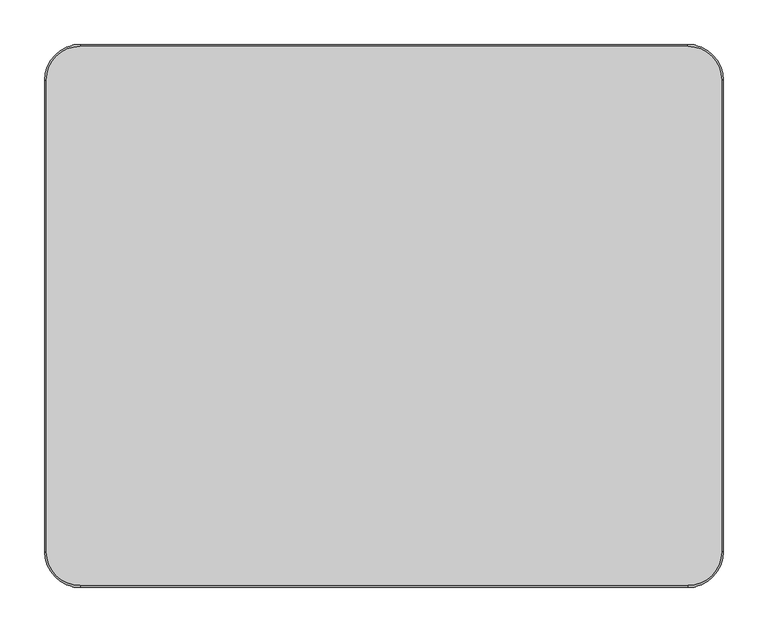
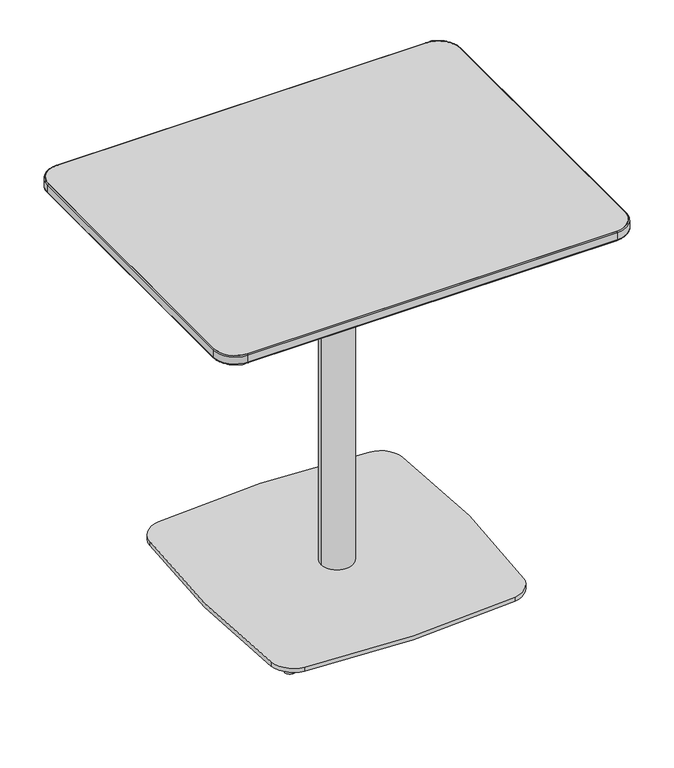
"""IFC4 building model written with IfcOpenShell, lengths in millimetres: furniture geometry, Coalesse_AM_Table_Conference_Montara650_WorkHeight_Rectangular : 24D x 30W."""

from ifc_helpers import new_model, si_unit, point, frame, frame_2d, origin, place, context, project, spatial, polyline, circle_curve, ellipse_curve, trimmed, segment, composite_curve, outline, extrude, source, transform, mapped, element, save
from ifc_brep_helpers import plane_surface, cylinder_surface, revolved_surface, spline_surface, advanced_brep


def furniture_fb8f0c13(model_context):
    return source(origin(), model_context, "Body", "SolidModel", [
        advanced_brep(
        [(-738.6535608, 215.2429015, 0.0), (-738.6535608, 194.5411546, 0.0), (-738.6535608, 219.370028, 11.9999882), (-738.6535608, 190.414028, 11.9999882)],
        [
            (0, 1, circle_curve(frame((-738.6535608, 204.892028, 0.0), z_axis=(0.0, 0.0, -1.0), x_axis=(0.0, 1.0, 0.0)), 10.3508735)),
            (1, 0, circle_curve(frame((-738.6535608, 204.892028, 0.0), z_axis=(0.0, 0.0, -1.0), x_axis=(0.0, -1.0, 0.0)), 10.3508735)),
            (2, 3, circle_curve(frame((-738.6535608, 204.892028, 11.9999882), z_axis=(0.0, 0.0, 1.0), x_axis=(0.0, -1.0, 0.0)), 14.478)),
            (3, 2, circle_curve(frame((-738.6535608, 204.892028, 11.9999882), z_axis=(0.0, 0.0, 1.0), x_axis=(0.0, 1.0, 0.0)), 14.478)),
            (2, 0),
            (1, 3),
        ],
        [
            plane_surface(frame((-738.6535608, 204.892028, 0.0), z_axis=(0.0, 0.0, -1.0), x_axis=(-1.0, 0.0, 0.0))),
            plane_surface(frame((-738.6535608, 204.892028, 11.9999882), z_axis=(0.0, 0.0, 1.0), x_axis=(-1.0, 0.0, 0.0))),
            revolved_surface(polyline([(-738.6535608, 194.5411545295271, 0.0), (-738.6535608, 190.414028, 11.999988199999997)]), (-738.6535608, 204.892028, -30.0960871), (0.0, 0.0, 1.0)),
            revolved_surface(polyline([(-738.6535608, 215.2429014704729, 0.0), (-738.6535608, 219.370028, 11.999988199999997)]), (-738.6535608, 204.892028, -30.0960871), (0.0, 0.0, 1.0)),
        ],
        [
            (0, [[1, 2]]),
            (1, [[3, 4]]),
            (2, [[-3, 5, -2, 6]]),
            (3, [[-4, -6, -1, -5]]),
        ],
    ),
        advanced_brep(
        [(-738.6535608, -194.5411546, 0.0), (-738.6535608, -215.2429015, 0.0), (-738.6535608, -190.414028, 11.9999882), (-738.6535608, -219.370028, 11.9999882)],
        [
            (0, 1, circle_curve(frame((-738.6535608, -204.892028, 0.0), z_axis=(0.0, 0.0, -1.0), x_axis=(0.0, 1.0, 0.0)), 10.3508735)),
            (1, 0, circle_curve(frame((-738.6535608, -204.892028, 0.0), z_axis=(0.0, 0.0, -1.0), x_axis=(0.0, -1.0, 0.0)), 10.3508735)),
            (2, 3, circle_curve(frame((-738.6535608, -204.892028, 11.9999882), z_axis=(0.0, 0.0, 1.0), x_axis=(0.0, -1.0, 0.0)), 14.478)),
            (3, 2, circle_curve(frame((-738.6535608, -204.892028, 11.9999882), z_axis=(0.0, 0.0, 1.0), x_axis=(0.0, 1.0, 0.0)), 14.478)),
            (3, 1),
            (0, 2),
        ],
        [
            plane_surface(frame((-738.6535608, -204.892028, 0.0), z_axis=(0.0, 0.0, -1.0), x_axis=(-1.0, 0.0, 0.0))),
            plane_surface(frame((-738.6535608, -204.892028, 11.9999882), z_axis=(0.0, 0.0, 1.0), x_axis=(-1.0, 0.0, 0.0))),
            revolved_surface(polyline([(-738.6535608, -194.5411545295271, 0.0), (-738.6535608, -190.414028, 11.999988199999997)]), (-738.6535608, -204.892028, -30.0960871), (0.0, 0.0, 1.0)),
            revolved_surface(polyline([(-738.6535608, -215.2429014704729, 0.0), (-738.6535608, -219.370028, 11.999988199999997)]), (-738.6535608, -204.892028, -30.0960871), (0.0, 0.0, 1.0)),
        ],
        [
            (0, [[1, 2]]),
            (1, [[3, 4]]),
            (2, [[-4, 5, -1, 6]]),
            (3, [[-3, -6, -2, -5]]),
        ],
    ),
        advanced_brep(
        [(-328.1464392, 194.5411546, 0.0), (-328.1464392, 215.2429015, 0.0), (-328.1464392, 190.414028, 11.9999882), (-328.1464392, 219.370028, 11.9999882)],
        [
            (0, 1, circle_curve(frame((-328.1464392, 204.892028, 0.0), z_axis=(0.0, 0.0, -1.0), x_axis=(0.0, -1.0, 0.0)), 10.3508735)),
            (1, 0, circle_curve(frame((-328.1464392, 204.892028, 0.0), z_axis=(0.0, 0.0, -1.0), x_axis=(0.0, 1.0, 0.0)), 10.3508735)),
            (2, 3, circle_curve(frame((-328.1464392, 204.892028, 11.9999882), z_axis=(0.0, 0.0, 1.0), x_axis=(0.0, 1.0, 0.0)), 14.478)),
            (3, 2, circle_curve(frame((-328.1464392, 204.892028, 11.9999882), z_axis=(0.0, 0.0, 1.0), x_axis=(0.0, -1.0, 0.0)), 14.478)),
            (3, 1),
            (0, 2),
        ],
        [
            plane_surface(frame((-328.1464392, 204.892028, 0.0), z_axis=(0.0, 0.0, -1.0), x_axis=(1.0, 0.0, 0.0))),
            plane_surface(frame((-328.1464392, 204.892028, 11.9999882), z_axis=(0.0, 0.0, 1.0), x_axis=(1.0, 0.0, 0.0))),
            revolved_surface(polyline([(-328.1464392, 194.5411545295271, 0.0), (-328.1464392, 190.414028, 11.999988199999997)]), (-328.1464392, 204.892028, -30.0960871), (0.0, 0.0, 1.0)),
            revolved_surface(polyline([(-328.1464392, 215.2429014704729, 0.0), (-328.1464392, 219.370028, 11.999988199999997)]), (-328.1464392, 204.892028, -30.0960871), (0.0, 0.0, 1.0)),
        ],
        [
            (0, [[1, 2]]),
            (1, [[3, 4]]),
            (2, [[-4, 5, -1, 6]]),
            (3, [[-3, -6, -2, -5]]),
        ],
    ),
        advanced_brep(
        [(-328.1464392, -215.2429015, 0.0), (-328.1464392, -194.5411546, 0.0), (-328.1464392, -219.370028, 11.9999882), (-328.1464392, -190.414028, 11.9999882)],
        [
            (0, 1, circle_curve(frame((-328.1464392, -204.892028, 0.0), z_axis=(0.0, 0.0, -1.0), x_axis=(0.0, -1.0, 0.0)), 10.3508735)),
            (1, 0, circle_curve(frame((-328.1464392, -204.892028, 0.0), z_axis=(0.0, 0.0, -1.0), x_axis=(0.0, 1.0, 0.0)), 10.3508735)),
            (2, 3, circle_curve(frame((-328.1464392, -204.892028, 11.9999882), z_axis=(0.0, 0.0, 1.0), x_axis=(0.0, 1.0, 0.0)), 14.478)),
            (3, 2, circle_curve(frame((-328.1464392, -204.892028, 11.9999882), z_axis=(0.0, 0.0, 1.0), x_axis=(0.0, -1.0, 0.0)), 14.478)),
            (2, 0),
            (1, 3),
        ],
        [
            plane_surface(frame((-328.1464392, -204.892028, 0.0), z_axis=(0.0, 0.0, -1.0), x_axis=(1.0, 0.0, 0.0))),
            plane_surface(frame((-328.1464392, -204.892028, 11.9999882), z_axis=(0.0, 0.0, 1.0), x_axis=(1.0, 0.0, 0.0))),
            revolved_surface(polyline([(-328.1464392, -194.5411545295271, 0.0), (-328.1464392, -190.414028, 11.999988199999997)]), (-328.1464392, -204.892028, -30.0960871), (0.0, 0.0, 1.0)),
            revolved_surface(polyline([(-328.1464392, -215.2429014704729, 0.0), (-328.1464392, -219.370028, 11.999988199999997)]), (-328.1464392, -204.892028, -30.0960871), (0.0, 0.0, 1.0)),
        ],
        [
            (0, [[1, 2]]),
            (1, [[3, 4]]),
            (2, [[-3, 5, -2, 6]]),
            (3, [[-4, -6, -1, -5]]),
        ],
    ),
        extrude(outline(composite_curve([segment(trimmed(circle_curve(frame_2d((-344.0811518, 188.9781952)), 44.45), [point((-338.9758413, 233.1340363))], [point((-299.9290283, 194.115557))], False, "CARTESIAN"), True, "CONTINUOUS"), segment(trimmed(circle_curve(frame_2d((-1930.9488879, 4.3367087)), 1642.0236885), [point((-299.9290283, 194.115557))], [point((-300.9116252, -193.704489))], False, "CARTESIAN"), True, "CONTINUOUS"), segment(trimmed(circle_curve(frame_2d((-345.0371496, -188.3434633)), 44.45), [point((-300.9116252, -193.704489))], [point((-339.4996689, -232.4471911))], False, "CARTESIAN"), True, "CONTINUOUS"), segment(trimmed(circle_curve(frame_2d((-537.7367152, 1346.4283112)), 1591.2717488), [point((-339.4996689, -232.4471911))], [point((-727.977927, -233.4305622))], False, "CARTESIAN"), True, "CONTINUOUS"), segment(trimmed(circle_curve(frame_2d((-722.663799, -189.2993652)), 44.45), [point((-727.977927, -233.4305622))], [point((-766.838325, -194.2403925))], False, "CARTESIAN"), True, "CONTINUOUS"), segment(trimmed(circle_curve(frame_2d((969.7397991, 5.89e-05)), 1747.4074894), [point((-766.838325, -194.2403925))], [point((-766.8410299, 194.2163254))], False, "CARTESIAN"), True, "CONTINUOUS"), segment(trimmed(circle_curve(frame_2d((-722.6664351, 189.2759133)), 44.45), [point((-766.8410299, 194.2163254))], [point((-727.7022914, 233.4397294))], False, "CARTESIAN"), True, "CONTINUOUS"), segment(trimmed(circle_curve(frame_2d((-534.6702107, -1459.4269529)), 1703.8365498), [point((-727.7022914, 233.4397294))], [point((-338.9758413, 233.1340363))], False, "CARTESIAN"), True, "CONTINUOUS")], self_intersect=False)), frame((0.0, 0.0, 11.999986), z_axis=(0.0, 0.0, 1.0), x_axis=(1.0, 0.0, 0.0)), (0.0, 0.0, 1.0), 8.0000105),
        advanced_brep(
        [(-217.3373638, 239.8635082, 693.930027), (-217.3373638, -239.8635082, 693.930027), (-849.4626362, -239.8635082, 693.930027), (-849.4626362, 239.8635082, 693.930027), (-192.611375, 302.768, 706.195891), (-874.188625, 302.768, 706.195891), (-912.288625, 264.668, 706.195891), (-912.288625, -264.668, 706.195891), (-874.188625, -302.768, 706.195891), (-192.611375, -302.768, 706.195891), (-154.511375, -264.668, 706.195891), (-154.511375, 264.668, 706.195891)],
        [
            (0, 1),
            (1, 2),
            (2, 3),
            (3, 0),
            (4, 5),
            (5, 6, circle_curve(frame((-874.188625, 264.668, 706.195891), z_axis=(0.0, 0.0, 1.0), x_axis=(1.0, 0.0, 0.0)), 38.1)),
            (6, 7),
            (7, 8, circle_curve(frame((-874.188625, -264.668, 706.195891), z_axis=(0.0, 0.0, 1.0), x_axis=(1.0, 0.0, 0.0)), 38.1)),
            (8, 9),
            (9, 10, circle_curve(frame((-192.611375, -264.668, 706.195891), z_axis=(0.0, 0.0, 1.0), x_axis=(1.0, 0.0, 0.0)), 38.1)),
            (10, 11),
            (11, 4, circle_curve(frame((-192.611375, 264.668, 706.195891), z_axis=(0.0, 0.0, 1.0), x_axis=(1.0, 0.0, 0.0)), 38.1)),
            (11, 0),
            (0, 4),
            (10, 1),
            (9, 1),
            (8, 2),
            (7, 2),
            (6, 3),
            (5, 3),
        ],
        [
            plane_surface(frame((-533.4, 0.0, 693.930027), z_axis=(0.0, 0.0, -1.0), x_axis=(-1.0, 0.0, 0.0))),
            plane_surface(frame((-533.4, 0.0, 706.195891), z_axis=(0.0, 0.0, 1.0), x_axis=(-1.0, 0.0, 0.0))),
            spline_surface(2, 1, [[(-192.611375, 302.768, 706.195891), (-217.3373638, 239.8635082, 693.930027)], [(-154.51137500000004, 302.7679999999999, 706.195891), (-217.3373638, 239.8635082, 693.930027)], [(-154.511375, 264.668, 706.195891), (-217.3373638, 239.8635082, 693.930027)]], [3, 3], [2, 2], [0.0, 1.0], [0.0, 1.0], weights=[[1.0, 1.0], [0.7071067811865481, 0.7071067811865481], [1.0, 1.0]]),
            plane_surface(frame((-154.511375, 0.0, 706.195891), z_axis=(0.19161772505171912, 0.0, -0.9814696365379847), x_axis=(0.0, -1.0, 0.0))),
            spline_surface(2, 1, [[(-154.511375, -264.668, 706.195891), (-217.3373638, -239.8635082, 693.930027)], [(-154.51137499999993, -302.76800000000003, 706.195891), (-217.3373638, -239.8635082, 693.930027)], [(-192.611375, -302.768, 706.195891), (-217.3373638, -239.8635082, 693.930027)]], [3, 3], [2, 2], [0.0, 1.0], [0.0, 1.0], weights=[[1.0, 1.0], [0.707106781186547, 0.707106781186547], [1.0, 1.0]]),
            plane_surface(frame((-533.4, -302.768, 706.195891), z_axis=(0.0, -0.19138735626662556, -0.9815145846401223), x_axis=(-1.0, 0.0, 0.0))),
            spline_surface(2, 1, [[(-874.188625, -302.768, 706.195891), (-849.4626362, -239.8635082, 693.930027)], [(-912.2886249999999, -302.7679999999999, 706.195891), (-849.4626362, -239.8635082, 693.930027)], [(-912.288625, -264.668, 706.195891), (-849.4626362, -239.8635082, 693.930027)]], [3, 3], [2, 2], [0.0, 1.0], [0.0, 1.0], weights=[[1.0, 1.0], [0.7071067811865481, 0.7071067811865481], [1.0, 1.0]]),
            plane_surface(frame((-912.288625, 0.0, 706.195891), z_axis=(-0.1916177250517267, 0.0, -0.9814696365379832), x_axis=(0.0, 1.0, 0.0))),
            spline_surface(2, 1, [[(-912.288625, 264.668, 706.195891), (-849.4626362, 239.8635082, 693.930027)], [(-912.2886250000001, 302.76800000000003, 706.195891), (-849.4626362, 239.8635082, 693.930027)], [(-874.188625, 302.768, 706.195891), (-849.4626362, 239.8635082, 693.930027)]], [3, 3], [2, 2], [0.0, 1.0], [0.0, 1.0], weights=[[1.0, 1.0], [0.707106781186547, 0.707106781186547], [1.0, 1.0]]),
            plane_surface(frame((-533.4, 302.768, 706.195891), z_axis=(0.0, 0.1913873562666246, -0.9815145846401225), x_axis=(1.0, 0.0, 0.0))),
        ],
        [
            (0, [[1, 2, 3, 4]]),
            (1, [[5, 6, 7, 8, 9, 10, 11, 12]]),
            (2, [[-12, 13, 14]]),
            (3, [[-11, 15, -1, -13]]),
            (4, [[-10, 16, -15]]),
            (5, [[-9, 17, -2, -16]]),
            (6, [[-8, 18, -17]]),
            (7, [[-7, 19, -3, -18]]),
            (8, [[-6, 20, -19]]),
            (9, [[-5, -14, -4, -20]]),
        ],
    ),
        extrude(outline(composite_curve([segment(trimmed(circle_curve(frame_2d((-192.611375, 264.668)), 38.1), [point((-192.611375, 302.768))], [point((-154.511375, 264.668))], False, "CARTESIAN"), True, "CONTINUOUS"), segment(polyline([(-154.511375, 264.668), (-154.511375, -264.668)]), True, "CONTINUOUS"), segment(trimmed(circle_curve(frame_2d((-192.611375, -264.668)), 38.1), [point((-154.511375, -264.668))], [point((-192.611375, -302.768))], False, "CARTESIAN"), True, "CONTINUOUS"), segment(polyline([(-192.611375, -302.768), (-874.188625, -302.768)]), True, "CONTINUOUS"), segment(trimmed(circle_curve(frame_2d((-874.188625, -264.668)), 38.1), [point((-874.188625, -302.768))], [point((-912.288625, -264.668))], False, "CARTESIAN"), True, "CONTINUOUS"), segment(polyline([(-912.288625, -264.668), (-912.288625, 264.668)]), True, "CONTINUOUS"), segment(trimmed(circle_curve(frame_2d((-874.188625, 264.668)), 38.1), [point((-912.288625, 264.668))], [point((-874.188625, 302.768))], False, "CARTESIAN"), True, "CONTINUOUS"), segment(polyline([(-874.188625, 302.768), (-192.611375, 302.768)]), True, "CONTINUOUS")], self_intersect=False)), frame((0.0, 0.0, 706.195891), z_axis=(0.0, 0.0, 1.0), x_axis=(1.0, 0.0, 0.0)), (0.0, 0.0, 1.0), 17.704109),
        advanced_brep(
        [(-914.3644915, 264.668, 708.1278467), (-874.188625, 304.8438665, 708.1278467), (-874.188625, 302.768, 706.195891), (-912.288625, 264.668, 706.195891), (-914.3644915, 264.668, 721.8999283), (-874.188625, 304.8438665, 721.8999283), (-912.288625, 264.668, 723.9), (-874.188625, 302.768, 723.9), (-912.288625, -264.668, 706.195891), (-914.3644915, -264.668, 708.1278467), (-914.3644915, -264.668, 721.8999283), (-912.288625, -264.668, 723.9), (-874.188625, -304.8438665, 708.1278467), (-874.188625, -302.768, 706.195891), (-874.188625, -304.8438665, 721.8999283), (-874.188625, -302.768, 723.9), (-192.611375, -302.768, 706.195891), (-192.611375, -304.8438665, 708.1278467), (-192.611375, -304.8438665, 721.8999283), (-192.611375, -302.768, 723.9), (-152.4355085, -264.668, 708.1278467), (-154.511375, -264.668, 706.195891), (-152.4355085, -264.668, 721.8999283), (-154.511375, -264.668, 723.9), (-154.511375, 264.668, 706.195891), (-152.4355085, 264.668, 708.1278467), (-152.4355085, 264.668, 721.8999283), (-154.511375, 264.668, 723.9), (-192.611375, 304.8438665, 708.1278467), (-192.611375, 302.768, 706.195891), (-192.611375, 304.8438665, 721.8999283), (-192.611375, 302.768, 723.9)],
        [
            (0, 1, circle_curve(frame((-874.188625, 264.668, 708.1278467), z_axis=(0.0, 0.0, -1.0), x_axis=(0.0, 1.0, 0.0)), 40.1758665)),
            (1, 2, circle_curve(frame((-874.188625, 302.9069224, 708.1278467), z_axis=(-1.0, 0.0, 0.0), x_axis=(0.0, -1.0, 0.0)), 1.9369441)),
            (2, 3, circle_curve(frame((-874.188625, 264.668, 706.195891), z_axis=(0.0, 0.0, 1.0), x_axis=(0.0, 1.0, 0.0)), 38.1)),
            (3, 0, circle_curve(frame((-912.4275474, 264.668, 708.1278467), z_axis=(0.0, 1.0, 0.0), x_axis=(1.0, 0.0, 0.0)), 1.9369441)),
            (4, 5, circle_curve(frame((-874.188625, 264.668, 721.8999283), z_axis=(0.0, 0.0, -1.0), x_axis=(0.0, 1.0, 0.0)), 40.1758665)),
            (5, 1),
            (0, 4),
            (6, 7, circle_curve(frame((-874.188625, 264.668, 723.9), z_axis=(0.0, 0.0, -1.0), x_axis=(0.0, 1.0, 0.0)), 38.1)),
            (7, 5, circle_curve(frame((-874.188625, 302.8424111, 721.8999283), z_axis=(-1.0, 0.0, 0.0), x_axis=(0.0, -1.0, 0.0)), 2.0014554)),
            (4, 6, circle_curve(frame((-912.3630361, 264.668, 721.8999283), z_axis=(0.0, 1.0, 0.0), x_axis=(1.0, 0.0, 0.0)), 2.0014554)),
            (2, 7),
            (6, 3),
            (3, 8),
            (8, 9, circle_curve(frame((-912.4275474, -264.668, 708.1278467), z_axis=(0.0, 1.0, 0.0), x_axis=(1.0, 0.0, 0.0)), 1.9369441)),
            (9, 0),
            (9, 10),
            (10, 4),
            (10, 11, circle_curve(frame((-912.3630361, -264.668, 721.8999283), z_axis=(0.0, 1.0, 0.0), x_axis=(1.0, 0.0, 0.0)), 2.0014554)),
            (11, 6),
            (11, 8),
            (12, 9, circle_curve(frame((-874.188625, -264.668, 708.1278467), z_axis=(0.0, 0.0, -1.0), x_axis=(-1.0, 0.0, 0.0)), 40.1758665)),
            (8, 13, circle_curve(frame((-874.188625, -264.668, 706.195891), z_axis=(0.0, 0.0, 1.0), x_axis=(-1.0, 0.0, 0.0)), 38.1)),
            (13, 12, circle_curve(frame((-874.188625, -302.9069224, 708.1278467), z_axis=(-1.0, 0.0, 0.0), x_axis=(0.0, 1.0, 0.0)), 1.9369441)),
            (14, 10, circle_curve(frame((-874.188625, -264.668, 721.8999283), z_axis=(0.0, 0.0, -1.0), x_axis=(-1.0, 0.0, 0.0)), 40.1758665)),
            (12, 14),
            (15, 11, circle_curve(frame((-874.188625, -264.668, 723.9), z_axis=(0.0, 0.0, -1.0), x_axis=(-1.0, 0.0, 0.0)), 38.1)),
            (14, 15, circle_curve(frame((-874.188625, -302.8424111, 721.8999283), z_axis=(-1.0, 0.0, 0.0), x_axis=(0.0, 1.0, 0.0)), 2.0014554)),
            (15, 13),
            (13, 16),
            (16, 17, circle_curve(frame((-192.611375, -302.9069224, 708.1278467), z_axis=(-1.0, 0.0, 0.0), x_axis=(0.0, 1.0, 0.0)), 1.9369441)),
            (17, 12),
            (17, 18),
            (18, 14),
            (18, 19, circle_curve(frame((-192.611375, -302.8424111, 721.8999283), z_axis=(-1.0, 0.0, 0.0), x_axis=(0.0, 1.0, 0.0)), 2.0014554)),
            (19, 15),
            (19, 16),
            (20, 17, circle_curve(frame((-192.611375, -264.668, 708.1278467), z_axis=(0.0, 0.0, -1.0), x_axis=(0.0, -1.0, 0.0)), 40.1758665)),
            (16, 21, circle_curve(frame((-192.611375, -264.668, 706.195891), z_axis=(0.0, 0.0, 1.0), x_axis=(0.0, -1.0, 0.0)), 38.1)),
            (21, 20, circle_curve(frame((-154.3724526, -264.668, 708.1278467), z_axis=(0.0, -1.0, 0.0), x_axis=(-1.0, 0.0, 0.0)), 1.9369441)),
            (22, 18, circle_curve(frame((-192.611375, -264.668, 721.8999283), z_axis=(0.0, 0.0, -1.0), x_axis=(0.0, -1.0, 0.0)), 40.1758665)),
            (20, 22),
            (23, 19, circle_curve(frame((-192.611375, -264.668, 723.9), z_axis=(0.0, 0.0, -1.0), x_axis=(0.0, -1.0, 0.0)), 38.1)),
            (22, 23, circle_curve(frame((-154.4369639, -264.668, 721.8999283), z_axis=(0.0, -1.0, 0.0), x_axis=(-1.0, 0.0, 0.0)), 2.0014554)),
            (23, 21),
            (21, 24),
            (24, 25, circle_curve(frame((-154.3724526, 264.668, 708.1278467), z_axis=(0.0, -1.0, 0.0), x_axis=(-1.0, 0.0, 0.0)), 1.9369441)),
            (25, 20),
            (25, 26),
            (26, 22),
            (26, 27, circle_curve(frame((-154.4369639, 264.668, 721.8999283), z_axis=(0.0, -1.0, 0.0), x_axis=(-1.0, 0.0, 0.0)), 2.0014554)),
            (27, 23),
            (27, 24),
            (28, 25, circle_curve(frame((-192.611375, 264.668, 708.1278467), z_axis=(0.0, 0.0, -1.0), x_axis=(1.0, 0.0, 0.0)), 40.1758665)),
            (24, 29, circle_curve(frame((-192.611375, 264.668, 706.195891), z_axis=(0.0, 0.0, 1.0), x_axis=(1.0, 0.0, 0.0)), 38.1)),
            (29, 28, circle_curve(frame((-192.611375, 302.9069224, 708.1278467), z_axis=(1.0, 0.0, 0.0), x_axis=(0.0, -1.0, 0.0)), 1.9369441)),
            (30, 26, circle_curve(frame((-192.611375, 264.668, 721.8999283), z_axis=(0.0, 0.0, -1.0), x_axis=(1.0, 0.0, 0.0)), 40.1758665)),
            (28, 30),
            (31, 27, circle_curve(frame((-192.611375, 264.668, 723.9), z_axis=(0.0, 0.0, -1.0), x_axis=(1.0, 0.0, 0.0)), 38.1)),
            (30, 31, circle_curve(frame((-192.611375, 302.8424111, 721.8999283), z_axis=(1.0, 0.0, 0.0), x_axis=(0.0, -1.0, 0.0)), 2.0014554)),
            (31, 29),
            (29, 2),
            (1, 28),
            (5, 30),
            (7, 31),
        ],
        [
            revolved_surface(trimmed(ellipse_curve(frame((-874.188625, 302.9069224, 708.1278467), z_axis=(1.0, 0.0, 0.0), x_axis=(0.0, -1.0, 0.0)), 1.9369441, 1.9369441), [point((-874.188625, 302.768, 706.195891))], [point((-874.188625, 304.8438665, 708.1278467))], True, "CARTESIAN"), (-874.188625, 264.668, 0.0), (0.0, 0.0, 1.0)),
            cylinder_surface(frame((-874.188625, 264.668, 0.0), z_axis=(0.0, 0.0, 1.0), x_axis=(0.0, 1.0, 0.0)), 40.1758665),
            revolved_surface(trimmed(ellipse_curve(frame((-874.188625, 302.8424111, 721.8999283), z_axis=(1.0, 0.0, 0.0), x_axis=(0.0, -1.0, 0.0)), 2.0014554, 2.0014554), [point((-874.188625, 304.8438665, 721.8999283))], [point((-874.188625, 302.768, 723.9))], True, "CARTESIAN"), (-874.188625, 264.668, 0.0), (0.0, 0.0, 1.0)),
            revolved_surface(polyline([(-874.188625, 302.76800000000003, 723.9), (-874.188625, 302.76800000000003, 706.195891)]), (-874.188625, 264.668, 0.0), (0.0, 0.0, 1.0)),
            cylinder_surface(frame((-912.4275474, 264.668, 708.1278467), z_axis=(0.0, 1.0, 0.0), x_axis=(1.0, 0.0, 0.0)), 1.9369441),
            plane_surface(frame((-914.3644915, 264.668, 708.1278467), z_axis=(-1.0, 0.0, 0.0), x_axis=(0.0, -1.0, 0.0))),
            cylinder_surface(frame((-912.3630361, 264.668, 721.8999283), z_axis=(0.0, 1.0, 0.0), x_axis=(1.0, 0.0, 0.0)), 2.0014554),
            plane_surface(frame((-912.288625, 264.668, 723.9), z_axis=(1.0, 0.0, 0.0), x_axis=(0.0, -1.0, 0.0))),
            revolved_surface(trimmed(ellipse_curve(frame((-912.4275474, -264.668, 708.1278467), z_axis=(0.0, 1.0, 0.0), x_axis=(1.0, 0.0, 0.0)), 1.9369441, 1.9369441), [point((-912.288625, -264.668, 706.195891))], [point((-914.3644915, -264.668, 708.1278467))], True, "CARTESIAN"), (-874.188625, -264.668, 0.0), (0.0, 0.0, 1.0)),
            cylinder_surface(frame((-874.188625, -264.668, 0.0), z_axis=(0.0, 0.0, 1.0), x_axis=(-1.0, 0.0, 0.0)), 40.1758665),
            revolved_surface(trimmed(ellipse_curve(frame((-912.3630361, -264.668, 721.8999283), z_axis=(0.0, 1.0, 0.0), x_axis=(1.0, 0.0, 0.0)), 2.0014554, 2.0014554), [point((-914.3644915, -264.668, 721.8999283))], [point((-912.288625, -264.668, 723.9))], True, "CARTESIAN"), (-874.188625, -264.668, 0.0), (0.0, 0.0, 1.0)),
            revolved_surface(polyline([(-912.288625, -264.668, 723.9), (-912.288625, -264.668, 706.195891)]), (-874.188625, -264.668, 0.0), (0.0, 0.0, 1.0)),
            cylinder_surface(frame((-874.188625, -302.9069224, 708.1278467), z_axis=(-1.0, 0.0, 0.0), x_axis=(0.0, 1.0, 0.0)), 1.9369441),
            plane_surface(frame((-874.188625, -304.8438665, 708.1278467), z_axis=(0.0, -1.0, 0.0), x_axis=(1.0, 0.0, 0.0))),
            cylinder_surface(frame((-874.188625, -302.8424111, 721.8999283), z_axis=(-1.0, 0.0, 0.0), x_axis=(0.0, 1.0, 0.0)), 2.0014554),
            plane_surface(frame((-874.188625, -302.768, 723.9), z_axis=(0.0, 1.0, 0.0), x_axis=(1.0, 0.0, 0.0))),
            revolved_surface(trimmed(ellipse_curve(frame((-192.611375, -302.9069224, 708.1278467), z_axis=(-1.0, 0.0, 0.0), x_axis=(0.0, 1.0, 0.0)), 1.9369441, 1.9369441), [point((-192.611375, -302.768, 706.195891))], [point((-192.611375, -304.8438665, 708.1278467))], True, "CARTESIAN"), (-192.611375, -264.668, 0.0), (0.0, 0.0, 1.0)),
            cylinder_surface(frame((-192.611375, -264.668, 0.0), z_axis=(0.0, 0.0, 1.0), x_axis=(0.0, -1.0, 0.0)), 40.1758665),
            revolved_surface(trimmed(ellipse_curve(frame((-192.611375, -302.8424111, 721.8999283), z_axis=(-1.0, 0.0, 0.0), x_axis=(0.0, 1.0, 0.0)), 2.0014554, 2.0014554), [point((-192.611375, -304.8438665, 721.8999283))], [point((-192.611375, -302.768, 723.9))], True, "CARTESIAN"), (-192.611375, -264.668, 0.0), (0.0, 0.0, 1.0)),
            revolved_surface(polyline([(-192.611375, -302.76800000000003, 723.9), (-192.611375, -302.76800000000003, 706.195891)]), (-192.611375, -264.668, 0.0), (0.0, 0.0, 1.0)),
            cylinder_surface(frame((-154.3724526, -264.668, 708.1278467), z_axis=(0.0, -1.0, 0.0), x_axis=(-1.0, 0.0, 0.0)), 1.9369441),
            plane_surface(frame((-152.4355085, -264.668, 708.1278467), z_axis=(1.0, 0.0, 0.0), x_axis=(0.0, 1.0, 0.0))),
            cylinder_surface(frame((-154.4369639, -264.668, 721.8999283), z_axis=(0.0, -1.0, 0.0), x_axis=(-1.0, 0.0, 0.0)), 2.0014554),
            plane_surface(frame((-154.511375, -264.668, 723.9), z_axis=(-1.0, 0.0, 0.0), x_axis=(0.0, 1.0, 0.0))),
            revolved_surface(trimmed(ellipse_curve(frame((-154.3724526, 264.668, 708.1278467), z_axis=(0.0, -1.0, 0.0), x_axis=(-1.0, 0.0, 0.0)), 1.9369441, 1.9369441), [point((-154.511375, 264.668, 706.195891))], [point((-152.4355085, 264.668, 708.1278467))], True, "CARTESIAN"), (-192.611375, 264.668, 0.0), (0.0, 0.0, 1.0)),
            cylinder_surface(frame((-192.611375, 264.668, 0.0), z_axis=(0.0, 0.0, 1.0), x_axis=(1.0, 0.0, 0.0)), 40.1758665),
            revolved_surface(trimmed(ellipse_curve(frame((-154.4369639, 264.668, 721.8999283), z_axis=(0.0, -1.0, 0.0), x_axis=(-1.0, 0.0, 0.0)), 2.0014554, 2.0014554), [point((-152.4355085, 264.668, 721.8999283))], [point((-154.511375, 264.668, 723.9))], True, "CARTESIAN"), (-192.611375, 264.668, 0.0), (0.0, 0.0, 1.0)),
            revolved_surface(polyline([(-154.51137500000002, 264.668, 723.9), (-154.51137500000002, 264.668, 706.195891)]), (-192.611375, 264.668, 0.0), (0.0, 0.0, 1.0)),
            cylinder_surface(frame((-192.611375, 302.9069224, 708.1278467), z_axis=(1.0, 0.0, 0.0), x_axis=(0.0, -1.0, 0.0)), 1.9369441),
            plane_surface(frame((-192.611375, 304.8438665, 708.1278467), z_axis=(0.0, 1.0, 0.0), x_axis=(-1.0, 0.0, 0.0))),
            cylinder_surface(frame((-192.611375, 302.8424111, 721.8999283), z_axis=(1.0, 0.0, 0.0), x_axis=(0.0, -1.0, 0.0)), 2.0014554),
            plane_surface(frame((-192.611375, 302.768, 723.9), z_axis=(0.0, -1.0, 0.0), x_axis=(-1.0, 0.0, 0.0))),
        ],
        [
            (0, [[1, 2, 3, 4]]),
            (1, [[5, 6, -1, 7]]),
            (2, [[8, 9, -5, 10]]),
            (3, [[-3, 11, -8, 12]]),
            (4, [[-4, 13, 14, 15]]),
            (5, [[-7, -15, 16, 17]]),
            (6, [[-10, -17, 18, 19]]),
            (7, [[-12, -19, 20, -13]]),
            (8, [[21, -14, 22, 23]]),
            (9, [[24, -16, -21, 25]]),
            (10, [[26, -18, -24, 27]]),
            (11, [[-22, -20, -26, 28]]),
            (12, [[-23, 29, 30, 31]]),
            (13, [[-25, -31, 32, 33]]),
            (14, [[-27, -33, 34, 35]]),
            (15, [[-28, -35, 36, -29]]),
            (16, [[37, -30, 38, 39]]),
            (17, [[40, -32, -37, 41]]),
            (18, [[42, -34, -40, 43]]),
            (19, [[-38, -36, -42, 44]]),
            (20, [[-39, 45, 46, 47]]),
            (21, [[-41, -47, 48, 49]]),
            (22, [[-43, -49, 50, 51]]),
            (23, [[-44, -51, 52, -45]]),
            (24, [[53, -46, 54, 55]]),
            (25, [[56, -48, -53, 57]]),
            (26, [[58, -50, -56, 59]]),
            (27, [[-54, -52, -58, 60]]),
            (28, [[-55, 61, -2, 62]]),
            (29, [[-57, -62, -6, 63]]),
            (30, [[-59, -63, -9, 64]]),
            (31, [[-60, -64, -11, -61]]),
        ],
    ),
        advanced_brep(
        [(-401.7995899, 0.0, 690.755027), (-665.0004101, 0.0, 690.755027), (-709.5626132, 0.0, 690.755027), (-357.2373868, 0.0, 690.755027), (-412.3511338, 0.0, 689.6460151), (-654.4488662, 0.0, 689.6460151), (-484.6538191, 0.0, 674.9837029), (-582.1461809, 0.0, 674.9837029), (-495.987015, 0.0, 674.9837029), (-570.812985, 0.0, 674.9837029), (-503.8504172, 0.0, 19.9999965), (-562.9495828, 0.0, 19.9999965), (-562.9495828, 0.0, 686.7852036), (-503.8504172, 0.0, 686.7852036), (-533.4, 0.0, 19.9999965), (-357.2373868, 0.0, 693.930027), (-709.5626132, 0.0, 693.930027), (-533.4, 0.0, 693.930027), (-500.0488913, 0.0, 676.4383874), (-566.7511087, 0.0, 676.4383874), (-501.687666, 0.0, 686.7852036), (-565.112334, 0.0, 686.7852036)],
        [
            (0, 1, circle_curve(frame((-533.4, 0.0, 690.755027), z_axis=(0.0, 0.0, 1.0), x_axis=(-1.0, 0.0, 0.0)), 131.6004101)),
            (1, 2),
            (2, 3, circle_curve(frame((-533.4, 0.0, 690.755027), z_axis=(0.0, 0.0, -1.0), x_axis=(-1.0, 0.0, 0.0)), 176.1626132)),
            (3, 0),
            (1, 0, circle_curve(frame((-533.4, 0.0, 690.755027), z_axis=(0.0, 0.0, 1.0), x_axis=(-1.0, 0.0, 0.0)), 131.6004101)),
            (3, 2, circle_curve(frame((-533.4, 0.0, 690.755027), z_axis=(0.0, 0.0, -1.0), x_axis=(-1.0, 0.0, 0.0)), 176.1626132)),
            (4, 5, circle_curve(frame((-533.4, 0.0, 689.6460151), z_axis=(0.0, 0.0, 1.0), x_axis=(-1.0, 0.0, 0.0)), 121.0488662)),
            (5, 1),
            (0, 4),
            (5, 4, circle_curve(frame((-533.4, 0.0, 689.6460151), z_axis=(0.0, 0.0, 1.0), x_axis=(-1.0, 0.0, 0.0)), 121.0488662)),
            (6, 7, circle_curve(frame((-533.4, 0.0, 674.9837029), z_axis=(0.0, 0.0, 1.0), x_axis=(-1.0, 0.0, 0.0)), 48.7461809)),
            (7, 5),
            (4, 6),
            (7, 6, circle_curve(frame((-533.4, 0.0, 674.9837029), z_axis=(0.0, 0.0, 1.0), x_axis=(-1.0, 0.0, 0.0)), 48.7461809)),
            (8, 9, circle_curve(frame((-533.4, 0.0, 674.9837029), z_axis=(0.0, 0.0, 1.0), x_axis=(-1.0, 0.0, 0.0)), 37.412985)),
            (9, 7),
            (6, 8),
            (9, 8, circle_curve(frame((-533.4, 0.0, 674.9837029), z_axis=(0.0, 0.0, 1.0), x_axis=(-1.0, 0.0, 0.0)), 37.412985)),
            (10, 11, circle_curve(frame((-533.4, 0.0, 19.9999965), z_axis=(0.0, 0.0, 1.0), x_axis=(-1.0, 0.0, 0.0)), 29.5495828)),
            (11, 12),
            (12, 13, circle_curve(frame((-533.4, 0.0, 686.7852036), z_axis=(0.0, 0.0, -1.0), x_axis=(-1.0, 0.0, 0.0)), 29.5495828)),
            (13, 10),
            (11, 10, circle_curve(frame((-533.4, 0.0, 19.9999965), z_axis=(0.0, 0.0, 1.0), x_axis=(-1.0, 0.0, 0.0)), 29.5495828)),
            (13, 12, circle_curve(frame((-533.4, 0.0, 686.7852036), z_axis=(0.0, 0.0, -1.0), x_axis=(-1.0, 0.0, 0.0)), 29.5495828)),
            (14, 11),
            (10, 14),
            (15, 16, circle_curve(frame((-533.4, 0.0, 693.930027), z_axis=(0.0, 0.0, 1.0), x_axis=(-1.0, 0.0, 0.0)), 176.1626132)),
            (16, 17),
            (17, 15),
            (16, 15, circle_curve(frame((-533.4, 0.0, 693.930027), z_axis=(0.0, 0.0, 1.0), x_axis=(-1.0, 0.0, 0.0)), 176.1626132)),
            (2, 16),
            (15, 3),
            (18, 19, circle_curve(frame((-533.4, 0.0, 676.4383874), z_axis=(0.0, 0.0, 1.0), x_axis=(-1.0, 0.0, 0.0)), 33.3511087)),
            (19, 9),
            (8, 18),
            (19, 18, circle_curve(frame((-533.4, 0.0, 676.4383874), z_axis=(0.0, 0.0, 1.0), x_axis=(-1.0, 0.0, 0.0)), 33.3511087)),
            (20, 21, circle_curve(frame((-533.4, 0.0, 686.7852036), z_axis=(0.0, 0.0, 1.0), x_axis=(-1.0, 0.0, 0.0)), 31.712334)),
            (21, 19),
            (18, 20),
            (21, 20, circle_curve(frame((-533.4, 0.0, 686.7852036), z_axis=(0.0, 0.0, 1.0), x_axis=(-1.0, 0.0, 0.0)), 31.712334)),
            (12, 21),
            (20, 13),
        ],
        [
            plane_surface(frame((-533.4, 0.0, 690.755027), z_axis=(0.0, 0.0, -1.0), x_axis=(-1.0, 0.0, 0.0))),
            revolved_surface(polyline([(-665.0004101, 0.0, 690.755027), (-654.4488662, 0.0, 689.6460151)]), (-533.4, 0.0, 439.0999965), (0.0, 0.0, -1.0)),
            revolved_surface(polyline([(-654.4488662, 0.0, 689.6460151), (-582.1461809, 0.0, 674.9837029)]), (-533.4, 0.0, 439.0999965), (0.0, 0.0, -1.0)),
            plane_surface(frame((-533.4, 0.0, 674.9837029), z_axis=(0.0, 0.0, -1.0), x_axis=(-1.0, 0.0, 0.0))),
            cylinder_surface(frame((-533.4, 0.0, 439.0999965), z_axis=(0.0, 0.0, -1.0), x_axis=(-1.0, 0.0, 0.0)), 29.5495828),
            plane_surface(frame((-533.4, 0.0, 19.9999965), z_axis=(0.0, 0.0, -1.0), x_axis=(-1.0, 0.0, 0.0))),
            plane_surface(frame((-533.4, 0.0, 693.930027), z_axis=(0.0, 0.0, 1.0), x_axis=(-1.0, 0.0, 0.0))),
            cylinder_surface(frame((-533.4, 0.0, 439.0999965), z_axis=(0.0, 0.0, -1.0), x_axis=(-1.0, 0.0, 0.0)), 176.1626132),
            revolved_surface(polyline([(-570.812985, 0.0, 674.9837029), (-566.7511087, 0.0, 676.4383874)]), (-533.4, 0.0, 439.0999965), (0.0, 0.0, -1.0)),
            revolved_surface(polyline([(-566.7511087, 0.0, 676.4383874), (-565.112334, 0.0, 686.7852036)]), (-533.4, 0.0, 439.0999965), (0.0, 0.0, -1.0)),
            plane_surface(frame((-533.4, 0.0, 686.7852036), z_axis=(0.0, 0.0, -1.0), x_axis=(-1.0, 0.0, 0.0))),
        ],
        [
            (0, [[1, 2, 3, 4]]),
            (0, [[5, -4, 6, -2]]),
            (1, [[7, 8, -1, 9]]),
            (1, [[10, -9, -5, -8]]),
            (2, [[11, 12, -7, 13]]),
            (2, [[14, -13, -10, -12]]),
            (3, [[15, 16, -11, 17]]),
            (3, [[18, -17, -14, -16]]),
            (4, [[19, 20, 21, 22]]),
            (4, [[23, -22, 24, -20]]),
            (5, [[25, -19, 26]]),
            (5, [[-26, -23, -25]]),
            (6, [[27, 28, 29]]),
            (6, [[30, -29, -28]]),
            (7, [[-3, 31, -27, 32]]),
            (7, [[-6, -32, -30, -31]]),
            (8, [[33, 34, -15, 35]]),
            (8, [[36, -35, -18, -34]]),
            (9, [[37, 38, -33, 39]]),
            (9, [[40, -39, -36, -38]]),
            (10, [[-21, 41, -37, 42]]),
            (10, [[-24, -42, -40, -41]]),
        ],
    ),
    ])


if __name__ == "__main__":
    model = new_model("IFC4")
    model_context = context("Model", 3, world=origin())
    ifc_project = project(units=[si_unit("LENGTHUNIT", "METRE", prefix="MILLI")], contexts=[model_context])
    site = spatial("IfcSite", under=ifc_project)
    building = spatial("IfcBuilding", under=site)
    placement = place(None, origin())
    furniture_shape = furniture_fb8f0c13(model_context)
    element("IfcFurniture", 1, ObjectType="Coalesse_AM_Table_Conference_Montara650_WorkHeight_Rectangular : 24D x 30W", at=placement, inside=building, context=model_context, shape_type="MappedRepresentation", body=[
        mapped(furniture_shape, transform((0.0, 0.0, 0.0), x_axis=(1.0, 0.0, 0.0), y_axis=(0.0, 1.0, 0.0), z_axis=(0.0, 0.0, 1.0))),
    ])
    save(model, "model.ifc")
